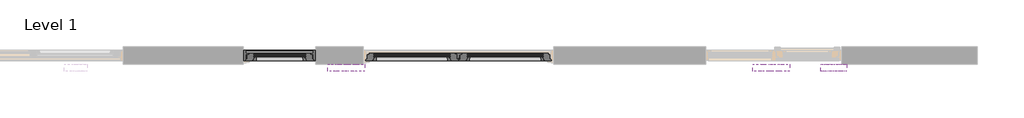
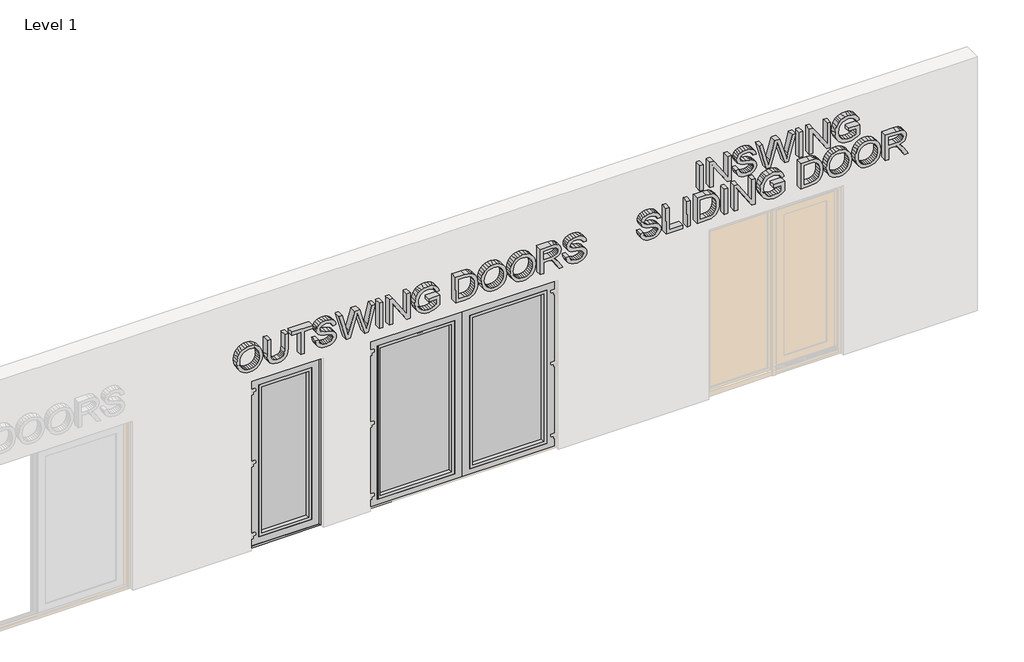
# One storey, part 4 of 4: 8 proxies.
"""IFC4 building model written with IfcOpenShell, lengths in millimetres."""

from ifc_helpers import new_model, si_unit, frame, origin, place, context, project, spatial, polyline, outline, extrude, transform, mapped, element, save
from components import default_b7455459, double_door_active_glazing_unit_default_3c53baf6, double_door_fixed_glazing_unit_default_5535939b, single_door_frame_default_a77f339c, single_door_glazing_unit_2_default_b848760a

model = new_model("IFC4")

# Units and contexts
model_context = context("Model", 3, world=origin())
ifc_project = project(units=[si_unit("LENGTHUNIT", "METRE", prefix="MILLI")], contexts=[model_context])

# Site, building, storey
site = spatial("IfcSite", under=ifc_project)
building = spatial("IfcBuilding", under=site)
storey = spatial("IfcBuildingStorey", under=building, Name="Level 1", Elevation=0.0)

# Proxies
placement = place(None, origin())
element("IfcBuildingElementProxy", 1, Name="600mm Arial", ObjectType="600mm Arial", at=placement, inside=storey, context=model_context, shape_type="SweptSolid", body=[
    extrude(outline(polyline([(2365.9362822, 5113.7460869), (2326.9959733, 5118.2158286), (2290.1830158, 5131.3788578), (2258.2199283, 5152.9665456), (2233.8292298, 5182.7102628), (2218.4087998, 5218.7839479), (2213.3565183, 5259.3615396), (2218.1585778, 5297.5572503), (2232.321306, 5333.0286957), (2255.5766458, 5363.2392491), (2287.6565404, 5385.6522837), (2326.5695701, 5399.502468), (2370.3243153, 5404.0244701), (2413.474852, 5399.4674154), (2451.7649655, 5386.076768), (2483.6530097, 5364.2662386), (2507.5973383, 5334.4495374), (2522.5443726, 5298.5817922), (2527.4405335, 5258.6181308), (2524.6741374, 5228.0145684), (2516.5724093, 5200.3738416), (2503.1353491, 5175.6959504), (2484.3629569, 5153.9808948), (2460.8812461, 5136.290991), (2433.31623, 5123.6885551), (2401.6679087, 5116.173587), (2365.9362822, 5113.7460869)]), holes=[polyline([(2365.681647, 5151.8179374), (2396.5481691, 5153.7073739), (2422.6727128, 5159.5802365), (2444.055278, 5169.4365252), (2460.6958648, 5183.2762401), (2473.1902285, 5199.8799429), (2482.1341245, 5218.0281956), (2487.5275528, 5237.720998), (2489.3705134, 5258.9583503), (2485.771248, 5288.4429007), (2474.7826271, 5314.8829402), (2457.0694007, 5336.8264509), (2433.2963185, 5352.8214151), (2404.1968823, 5362.6146188), (2370.5045937, 5365.9528484), (2343.6791948, 5364.1462474), (2320.0859871, 5358.5514074), (2299.7249707, 5349.1683282), (2282.5961455, 5335.9970101), (2269.013498, 5319.8869512), (2259.2910143, 5301.6876498), (2253.4286944, 5281.3991061), (2251.4265384, 5259.02132), (2253.2735076, 5237.0081247), (2258.9558178, 5216.9210712), (2268.473469, 5198.7601595), (2281.8264612, 5182.5253897), (2298.5204073, 5169.1523997), (2318.0609203, 5159.5768277), (2340.4480002, 5153.7986736), (2365.681647, 5151.8179374)])]), frame((0.0, 4149.5439366, 0.0), z_axis=(0.0, 1.0, 0.0), x_axis=(0.0, 0.0, 1.0)), (0.0, 0.0, 1.0), 76.2),
    extrude(outline(polyline([(2523.9623261, 5655.7727031), (2349.5369414, 5655.7727031), (2301.8593862, 5651.6413139), (2284.9246841, 5645.6751099), (2272.592699, 5637.287417), (2263.807206, 5626.063224), (2257.5119805, 5611.5875199), (2252.3923313, 5572.8815782), (2254.8453012, 5548.447574), (2262.3671211, 5528.0876376), (2274.5601251, 5512.4536213), (2291.0266472, 5502.1973774), (2314.8313905, 5496.4915421), (2349.0390581, 5494.508752), (2523.4058683, 5494.508752), (2523.4058683, 5455.9014939), (2347.5834858, 5455.9014939), (2304.3631678, 5459.465809), (2271.366117, 5468.2392952), (2246.7921828, 5483.7441049), (2228.8412149, 5506.9617203), (2217.8943207, 5537.9002633), (2214.3326075, 5576.567856), (2218.683264, 5616.0755077), (2231.4661569, 5647.1548087), (2250.9619557, 5669.8668178), (2275.4513298, 5684.2725939), (2307.160495, 5691.9267952), (2348.3156672, 5694.3840798), (2524.0209006, 5694.3840798), (2523.9623261, 5655.7727031)])), frame((0.0, 4149.5439366, 0.0), z_axis=(0.0, 1.0, 0.0), x_axis=(0.0, 0.0, 1.0)), (0.0, 0.0, 1.0), 76.2),
    extrude(outline(polyline([(2219.8945572, 5837.1357296), (2219.8945572, 5875.6164577), (2486.5066518, 5875.6164577), (2486.5066518, 5974.7320192), (2524.8848745, 5974.7320192), (2524.8848745, 5736.6729545), (2486.0819867, 5736.6729545), (2486.0819867, 5836.7257081), (2219.8945572, 5837.1357296)])), frame((0.0, 4149.5439366, 0.0), z_axis=(0.0, 1.0, 0.0), x_axis=(0.0, 0.0, 1.0)), (0.0, 0.0, 1.0), 76.2),
    extrude(outline(polyline([(2325.1601016, 6003.7829324), (2294.3688701, 6008.3947225), (2267.0050377, 6020.3947228), (2244.5692068, 6039.0252651), (2228.6205547, 6063.5286816), (2219.1229898, 6094.2582815), (2216.0404205, 6131.5673744), (2219.0988959, 6161.942318), (2228.0775486, 6189.120259), (2242.3864995, 6211.6995138), (2261.4358698, 6228.2783986), (2283.5420488, 6238.4438329), (2307.0214257, 6241.7827362), (2329.969979, 6238.7471128), (2350.0375464, 6229.7903398), (2367.0372632, 6214.5969725), (2380.7822649, 6192.8515665), (2389.60836, 6167.4313031), (2399.6846762, 6125.4254583), (2410.3040835, 6084.7191995), (2420.7594525, 6063.1976941), (2432.4984522, 6054.0713607), (2447.1188383, 6050.9963014), (2464.2898375, 6055.2190231), (2478.7731245, 6068.0011338), (2488.6564701, 6090.1478614), (2492.0276452, 6122.4644339), (2488.815951, 6154.0576872), (2478.9593838, 6176.8600178), (2462.6085447, 6191.484412), (2439.9140353, 6198.5438563), (2439.9140353, 6236.6145628), (2465.2435316, 6232.2428321), (2487.6474766, 6221.3734574), (2506.0912315, 6204.251645), (2519.423009, 6181.1226011), (2527.478595, 6152.990658), (2530.0937755, 6120.8601479), (2527.4093438, 6091.2183341), (2519.5473309, 6064.4552183), (2506.6892823, 6042.1782238), (2489.0167435, 6025.9947742), (2468.1942498, 6016.1599988), (2445.8863366, 6012.929027), (2425.9483203, 6015.6579563), (2408.0715343, 6023.7156974), (2392.5908704, 6037.1941666), (2379.8412203, 6056.1852803), (2370.7576784, 6079.4964404), (2361.2497334, 6115.914425), (2346.8835448, 6171.3921874), (2339.0424185, 6187.663441), (2329.6752022, 6197.3215683), (2318.6756804, 6202.0957094), (2305.9376376, 6203.7150042), (2292.8536345, 6201.64537), (2280.3700906, 6195.3540969), (2269.4812427, 6184.7451787), (2261.1813277, 6169.722609), (2255.9099093, 6151.1680311), (2254.1065508, 6129.9630884), (2256.3281852, 6105.8644051), (2263.1491344, 6084.2797257), (2273.7092901, 6066.6059012), (2287.1485442, 6054.2397823), (2304.1054788, 6046.2871135), (2325.2186761, 6041.8536389), (2325.1601016, 6003.7829324)])), frame((0.0, 4149.5439366, 0.0), z_axis=(0.0, 1.0, 0.0), x_axis=(0.0, 0.0, 1.0)), (0.0, 0.0, 1.0), 76.2),
    extrude(outline(polyline([(2221.4827043, 6353.6566377), (2221.4827043, 6399.6091702), (2450.1044142, 6465.4561133), (2489.623137, 6476.7855717), (2456.8631133, 6487.0733637), (2222.1201596, 6560.8148181), (2222.1201596, 6601.4880143), (2527.0667749, 6683.6817791), (2527.0667749, 6644.421363), (2324.8431244, 6596.4134228), (2264.792759, 6582.1728412), (2320.666494, 6568.1518155), (2376.3762996, 6549.186517), (2526.5164948, 6504.853558), (2526.5164948, 6448.2679962), (2318.8496879, 6388.528148), (2264.1484395, 6372.7839553), (2325.8932194, 6357.7224473), (2525.9135893, 6308.9232618), (2525.9135893, 6269.6628457), (2221.4827043, 6353.6566377)])), frame((0.0, 4149.5439366, 0.0), z_axis=(0.0, 1.0, 0.0), x_axis=(0.0, 0.0, 1.0)), (0.0, 0.0, 1.0), 76.2),
    extrude(outline(polyline([(2222.6329154, 6726.9799199), (2222.6329154, 6765.5192225), (2527.3157165, 6765.5192225), (2527.3157165, 6726.5113239), (2222.6329154, 6726.9799199)])), frame((0.0, 4149.5439366, 0.0), z_axis=(0.0, 1.0, 0.0), x_axis=(0.0, 0.0, 1.0)), (0.0, 0.0, 1.0), 76.2),
    extrude(outline(polyline([(2222.9843624, 6841.1920395), (2222.9843624, 6879.7313421), (2464.4638422, 6879.7313421), (2223.5911577, 7038.8549982), (2223.5911577, 7079.6025513), (2528.2821959, 7079.6025513), (2528.2821959, 7040.5946527), (2286.8770729, 7040.5946527), (2527.6754006, 6881.4709965), (2527.6754006, 6840.7234434), (2222.9843624, 6841.1920395)])), frame((0.0, 4149.5439366, 0.0), z_axis=(0.0, 1.0, 0.0), x_axis=(0.0, 0.0, 1.0)), (0.0, 0.0, 1.0), 76.2),
    extrude(outline(polyline([(2343.3318211, 7288.5667719), (2343.3318211, 7374.2844361), (2288.5713384, 7374.2844361), (2277.7675707, 7358.2677566), (2267.5956061, 7335.9639073), (2260.1830234, 7310.2682983), (2257.6574014, 7283.9070229), (2260.8093245, 7254.0334718), (2270.4540879, 7225.8315757), (2286.7942861, 7201.7080369), (2310.0325134, 7184.0695577), (2339.9559948, 7173.2421072), (2376.3519555, 7169.5516544), (2407.4050921, 7172.4304016), (2436.1714709, 7181.2647896), (2465.5655383, 7200.767555), (2477.6748403, 7215.3229627), (2487.2310722, 7233.8643556), (2493.4625242, 7256.3104561), (2495.5974867, 7282.5799868), (2493.7611635, 7305.0323236), (2488.107588, 7325.3958058), (2479.2744557, 7342.488045), (2467.8994621, 7355.1266527), (2452.7878647, 7364.7002147), (2432.7449206, 7372.5973168), (2442.7423783, 7407.6633181), (2470.8473202, 7397.8824692), (2493.0483276, 7384.4948569), (2510.1693598, 7366.4383506), (2523.0343763, 7342.6508197), (2531.0617925, 7314.4260163), (2533.6700237, 7283.0576925), (2528.872682, 7240.3540406), (2514.7598011, 7202.9584401), (2504.1437415, 7186.6068853), (2491.0662133, 7172.2937953), (2457.526751, 7149.7830103), (2417.5821916, 7135.9917684), (2374.6733127, 7131.4857528), (2332.0997567, 7136.2733995), (2293.7560206, 7150.3613139), (2261.8257935, 7173.5661773), (2238.4927644, 7205.7046709), (2224.2513773, 7244.3493583), (2219.596076, 7287.0728027), (2222.7081175, 7319.7526656), (2231.8406041, 7351.6146591), (2246.9375393, 7382.5845978), (2267.9429266, 7412.5882966), (2381.783262, 7412.5882966), (2381.783262, 7288.5081974), (2343.3318211, 7288.5667719)])), frame((0.0, 4149.5439366, 0.0), z_axis=(0.0, 1.0, 0.0), x_axis=(0.0, 0.0, 1.0)), (0.0, 0.0, 1.0), 76.2),
    extrude(outline(polyline([(2225.2980554, 7593.0884932), (2225.2980554, 7703.6795821), (2230.9925666, 7752.6275505), (2237.4759162, 7772.3588253), (2246.3848999, 7788.9782082), (2258.373086, 7803.4410416), (2274.0940429, 7816.7026679), (2293.9921955, 7828.2040379), (2318.511969, 7837.3861023), (2347.2974797, 7843.3762551), (2379.9928443, 7845.3018901), (2418.463304, 7842.1906195), (2452.379577, 7833.1075798), (2481.1838726, 7818.0173086), (2504.3183999, 7796.8843435), (2517.5838288, 7776.3580181), (2525.9672149, 7752.0544803), (2530.1870113, 7697.6861243), (2530.1870113, 7592.6198972), (2225.2980554, 7593.0884932)]), holes=[polyline([(2263.5895603, 7631.5106468), (2491.91015, 7631.5106468), (2491.91015, 7697.1340617), (2490.6886602, 7729.2237324), (2486.1830976, 7751.135896), (2473.5342874, 7772.692035), (2452.546699, 7790.7604393), (2421.9491731, 7803.0399362), (2380.4705501, 7807.2293532), (2349.1506442, 7805.2530122), (2322.8556589, 7799.1157753), (2301.4939636, 7789.2454803), (2284.973928, 7776.0699651), (2276.0318279, 7763.7913063), (2269.3464001, 7747.8621832), (2265.1545567, 7726.7389478), (2263.6932097, 7698.8779516), (2263.5895603, 7631.5106468)])]), frame((0.0, 4149.5439366, 0.0), z_axis=(0.0, 1.0, 0.0), x_axis=(0.0, 0.0, 1.0)), (0.0, 0.0, 1.0), 76.2),
    extrude(outline(polyline([(2374.4588728, 7883.389986), (2335.5185639, 7887.8597277), (2298.7056064, 7901.0227569), (2266.7425189, 7922.6104447), (2242.3518204, 7952.3541619), (2226.9313904, 7988.427847), (2221.8791089, 8029.0054387), (2226.6811684, 8067.2011494), (2240.8438966, 8102.6725948), (2264.0992364, 8132.8831482), (2296.179131, 8155.2961828), (2335.0921607, 8169.1463671), (2378.8469059, 8173.6683692), (2421.9974426, 8169.1113145), (2460.2875561, 8155.7206671), (2492.1756003, 8133.9101377), (2516.1199289, 8104.0934364), (2531.0669632, 8068.2256913), (2535.9631241, 8028.2620299), (2533.196728, 7997.6584675), (2525.0949998, 7970.0177407), (2511.6579397, 7945.3398495), (2492.8855475, 7923.6247939), (2469.4038367, 7905.9348901), (2441.8388206, 7893.3324542), (2410.1904993, 7885.8174861), (2374.4588728, 7883.389986)]), holes=[polyline([(2374.2042376, 7921.4618365), (2405.0707597, 7923.351273), (2431.1953034, 7929.2241356), (2452.5778686, 7939.0804243), (2469.2184554, 7952.9201392), (2481.7128191, 7969.523842), (2490.656715, 7987.6720947), (2496.0501434, 8007.3648971), (2497.893104, 8028.6022494), (2494.2938386, 8058.0867998), (2483.3052177, 8084.5268393), (2465.5919912, 8106.47035), (2441.8189091, 8122.4653142), (2412.7194729, 8132.2585179), (2379.0271843, 8135.5967475), (2352.2017853, 8133.7901465), (2328.6085777, 8128.1953065), (2308.2475612, 8118.8122273), (2291.1187361, 8105.6409092), (2277.5360886, 8089.5308503), (2267.8136049, 8071.3315489), (2261.951285, 8051.0430052), (2259.949129, 8028.6652191), (2261.7960982, 8006.6520238), (2267.4784084, 7986.5649703), (2276.9960596, 7968.4040586), (2290.3490518, 7952.1692888), (2307.0429979, 7938.7962988), (2326.5835109, 7929.2207268), (2348.9705908, 7923.4425727), (2374.2042376, 7921.4618365)])]), frame((0.0, 4149.5439366, 0.0), z_axis=(0.0, 1.0, 0.0), x_axis=(0.0, 0.0, 1.0)), (0.0, 0.0, 1.0), 76.2),
    extrude(outline(polyline([(2375.4692831, 8211.7498297), (2336.5289741, 8216.2195714), (2299.7160166, 8229.3826006), (2267.7529292, 8250.9702884), (2243.3622306, 8280.7140056), (2227.9418007, 8316.7876908), (2222.8895191, 8357.3652824), (2227.6915786, 8395.5609932), (2241.8543068, 8431.0324385), (2265.1096467, 8461.2429919), (2297.1895412, 8483.6560265), (2336.1025709, 8497.5062108), (2379.8573162, 8502.0282129), (2423.0078528, 8497.4711582), (2461.2979663, 8484.0805109), (2493.1860105, 8462.2699814), (2517.1303391, 8432.4532802), (2532.0773734, 8396.585535), (2536.9735343, 8356.6218736), (2534.2071382, 8326.0183112), (2526.1054101, 8298.3775844), (2512.6683499, 8273.6996932), (2493.8959577, 8251.9846376), (2470.4142469, 8234.2947338), (2442.8492308, 8221.6922979), (2411.2009096, 8214.1773298), (2375.4692831, 8211.7498297)]), holes=[polyline([(2375.2146478, 8249.8216802), (2406.0811699, 8251.7111167), (2432.2057136, 8257.5839793), (2453.5882788, 8267.440268), (2470.2288656, 8281.2799829), (2482.7232293, 8297.8836857), (2491.6671253, 8316.0319384), (2497.0605536, 8335.7247408), (2498.9035142, 8356.9620931), (2495.3042488, 8386.4466435), (2484.3156279, 8412.886683), (2466.6024015, 8434.8301937), (2442.8293193, 8450.8251579), (2413.7298831, 8460.6183617), (2380.0375945, 8463.9565912), (2353.2121956, 8462.1499902), (2329.6189879, 8456.5551502), (2309.2579715, 8447.1720711), (2292.1291464, 8434.0007529), (2278.5464988, 8417.890694), (2268.8240151, 8399.6913927), (2262.9616952, 8379.4028489), (2260.9595392, 8357.0250628), (2262.8065084, 8335.0118675), (2268.4888186, 8314.924814), (2278.0064698, 8296.7639023), (2291.359462, 8280.5291325), (2308.0534081, 8267.1561425), (2327.5939211, 8257.5805705), (2349.981001, 8251.8024164), (2375.2146478, 8249.8216802)])]), frame((0.0, 4149.5439366, 0.0), z_axis=(0.0, 1.0, 0.0), x_axis=(0.0, 0.0, 1.0)), (0.0, 0.0, 1.0), 76.2),
    extrude(outline(polyline([(2228.2560679, 8554.3738328), (2228.2560679, 8592.9131353), (2361.6206897, 8592.9131353), (2361.6206897, 8638.4556462), (2360.4916246, 8660.5437488), (2353.2975462, 8678.6719501), (2333.6176951, 8698.8462259), (2291.9172367, 8727.6022019), (2228.9102262, 8767.4286591), (2228.9102262, 8811.6709841), (2311.4261932, 8760.6312811), (2350.5172977, 8729.6526077), (2366.7348648, 8707.9646561), (2376.9442114, 8745.4373312), (2385.0891851, 8759.9468458), (2395.2610259, 8771.6384785), (2420.1810121, 8787.0374618), (2450.199874, 8792.1036447), (2474.3097955, 8788.9157325), (2496.2256167, 8779.5071268), (2513.8777577, 8764.8973177), (2525.1966391, 8746.1057952), (2531.279996, 8720.4244255), (2533.2255638, 8685.1450746), (2533.2255638, 8553.9052367), (2228.2560679, 8554.3738328)]), holes=[polyline([(2399.8225025, 8592.3859648), (2494.8681625, 8592.3859648), (2494.8681625, 8686.8980743), (2491.9622958, 8717.0320173), (2482.155347, 8737.835836), (2467.2281837, 8749.9555766), (2448.6699449, 8754.0372855), (2435.2141575, 8751.9687953), (2422.8049704, 8745.6772935), (2412.5303388, 8735.317442), (2405.4782177, 8721.0439029), (2401.3766326, 8702.067464), (2399.9536087, 8677.5989133), (2399.8225025, 8592.3859648)])]), frame((0.0, 4149.5439366, 0.0), z_axis=(0.0, 1.0, 0.0), x_axis=(0.0, 0.0, 1.0)), (0.0, 0.0, 1.0), 76.2),
    extrude(outline(polyline([(2333.9023466, 8844.8094062), (2303.1111151, 8849.4211963), (2275.7472827, 8861.4211966), (2253.3114518, 8880.0517389), (2237.3627997, 8904.5551554), (2227.8652348, 8935.2847553), (2224.7826654, 8972.5938482), (2227.8411409, 9002.9687918), (2236.8197936, 9030.1467329), (2251.1287445, 9052.7259876), (2270.1781148, 9069.3048724), (2292.2842938, 9079.4703067), (2315.7636707, 9082.80921), (2338.712224, 9079.7735866), (2358.7797914, 9070.8168136), (2375.7795082, 9055.6234464), (2389.5245099, 9033.8780403), (2398.350605, 9008.4577769), (2408.4269211, 8966.4519321), (2419.0463285, 8925.7456733), (2429.5016975, 8904.2241679), (2441.2406972, 8895.0978345), (2455.8610833, 8892.0227752), (2473.0320825, 8896.2454969), (2487.5153695, 8909.0276076), (2497.3987151, 8931.1743352), (2500.7698901, 8963.4909077), (2497.558196, 8995.0841611), (2487.7016288, 9017.8864917), (2471.3507897, 9032.5108859), (2448.6562803, 9039.5703301), (2448.6562803, 9077.6410366), (2473.9857766, 9073.2693059), (2496.3897215, 9062.3999312), (2514.8334765, 9045.2781188), (2528.165254, 9022.1490749), (2536.22084, 8994.0171318), (2538.8360205, 8961.8866217), (2536.1515888, 8932.2448079), (2528.2895759, 8905.4816921), (2515.4315273, 8883.2046976), (2497.7589885, 8867.021248), (2476.9364948, 8857.1864726), (2454.6285815, 8853.9555008), (2434.6905653, 8856.6844301), (2416.8137793, 8864.7421712), (2401.3331154, 8878.2206404), (2388.5834653, 8897.2117541), (2379.4999234, 8920.5229142), (2369.9919783, 8956.9408989), (2355.6257898, 9012.4186612), (2347.7846635, 9028.6899148), (2338.4174472, 9038.3480421), (2327.4179254, 9043.1221832), (2314.6798826, 9044.741478), (2301.5958795, 9042.6718438), (2289.1123355, 9036.3805708), (2278.2234877, 9025.7716526), (2269.9235727, 9010.7490829), (2264.6521543, 8992.194505), (2262.8487958, 8970.9895622), (2265.0704302, 8946.8908789), (2271.8913793, 8925.3061995), (2282.4515351, 8907.632375), (2295.8907892, 8895.2662562), (2312.8477238, 8887.3135873), (2333.9609211, 8882.8801127), (2333.9023466, 8844.8094062)])), frame((0.0, 4149.5439366, 0.0), z_axis=(0.0, 1.0, 0.0), x_axis=(0.0, 0.0, 1.0)), (0.0, 0.0, 1.0), 76.2),
])
element("IfcBuildingElementProxy", 2, Name="600mm Arial", ObjectType="600mm Arial", at=placement, inside=storey, context=model_context, shape_type="SweptSolid", body=[
    extrude(outline(polyline([(2322.4217434, 9685.8801676), (2291.630512, 9690.4919577), (2264.2666795, 9702.4919579), (2241.8308487, 9721.1225003), (2225.8821966, 9745.6259167), (2216.3846317, 9776.3555167), (2213.3020623, 9813.6646096), (2216.3605378, 9844.0395532), (2225.3391904, 9871.2174942), (2239.6481414, 9893.7967489), (2258.6975117, 9910.3756337), (2280.8036907, 9920.541068), (2304.2830675, 9923.8799714), (2327.2316209, 9920.844348), (2347.2991882, 9911.887575), (2364.298905, 9896.6942077), (2378.0439067, 9874.9488017), (2386.8700019, 9849.5285383), (2396.946318, 9807.5226935), (2407.5657254, 9766.8164347), (2418.0210944, 9745.2949293), (2429.760094, 9736.1685959), (2444.3804801, 9733.0935366), (2461.5514794, 9737.3162582), (2476.0347664, 9750.0983689), (2485.918112, 9772.2450966), (2489.289287, 9804.561669), (2486.0775929, 9836.1549224), (2476.2210256, 9858.957253), (2459.8701866, 9873.5816472), (2437.1756772, 9880.6410914), (2437.1756772, 9918.7117979), (2462.5051735, 9914.3400673), (2484.9091184, 9903.4706926), (2503.3528734, 9886.3488802), (2516.6846509, 9863.2198362), (2524.7402369, 9835.0878931), (2527.3554174, 9802.9573831), (2524.6709856, 9773.3155693), (2516.8089728, 9746.5524534), (2503.9509242, 9724.275459), (2486.2783854, 9708.0920093), (2465.4558917, 9698.2572339), (2443.1479784, 9695.0262622), (2423.2099622, 9697.7551915), (2405.3331762, 9705.8129325), (2389.8525122, 9719.2914017), (2377.1028622, 9738.2825155), (2368.0193202, 9761.5936755), (2358.5113752, 9798.0116602), (2344.1451867, 9853.4894226), (2336.3040604, 9869.7606761), (2326.9368441, 9879.4188035), (2315.9373223, 9884.1929446), (2303.1992795, 9885.8122393), (2290.1152763, 9883.7426051), (2277.6317324, 9877.4513321), (2266.7428846, 9866.8424139), (2258.4429696, 9851.8198442), (2253.1715511, 9833.2652663), (2251.3681927, 9812.0603236), (2253.589827, 9787.9616402), (2260.4107762, 9766.3769609), (2270.970932, 9748.7031364), (2284.4101861, 9736.3370175), (2301.3671207, 9728.3843486), (2322.4803179, 9723.9508741), (2322.4217434, 9685.8801676)])), frame((0.0, 4149.5439366, 0.0), z_axis=(0.0, 1.0, 0.0), x_axis=(0.0, 0.0, 1.0)), (0.0, 0.0, 1.0), 76.2),
    extrude(outline(polyline([(2218.5766308, 9980.7817068), (2218.5766308, 10171.6038354), (2257.2330824, 10171.6038354), (2257.2330824, 10019.2038603), (2523.259432, 10019.2038603), (2523.259432, 9980.3131108), (2218.5766308, 9980.7817068)])), frame((0.0, 4149.5439366, 0.0), z_axis=(0.0, 1.0, 0.0), x_axis=(0.0, 0.0, 1.0)), (0.0, 0.0, 1.0), 76.2),
    extrude(outline(polyline([(2219.3088122, 10218.7236225), (2219.3088122, 10257.2629251), (2523.9916133, 10257.2629251), (2523.9916133, 10218.2550265), (2219.3088122, 10218.7236225)])), frame((0.0, 4149.5439366, 0.0), z_axis=(0.0, 1.0, 0.0), x_axis=(0.0, 0.0, 1.0)), (0.0, 0.0, 1.0), 76.2),
    extrude(outline(polyline([(2219.6602592, 10332.9357421), (2219.6602592, 10443.526831), (2225.3547705, 10492.4747994), (2231.83812, 10512.2060741), (2240.7471037, 10528.825457), (2252.7352898, 10543.2882905), (2268.4562467, 10556.5499168), (2288.3543993, 10568.0512867), (2312.8741728, 10577.2333512), (2341.6596836, 10583.223504), (2374.3550481, 10585.149139), (2412.8255079, 10582.0378684), (2446.7417809, 10572.9548287), (2475.5460764, 10557.8645575), (2498.6806037, 10536.7315924), (2511.9460326, 10516.205267), (2520.3294187, 10491.9017292), (2524.5492151, 10437.5333732), (2524.5492151, 10332.467146), (2219.6602592, 10332.9357421)]), holes=[polyline([(2257.9517641, 10371.3578956), (2486.2723538, 10371.3578956), (2486.2723538, 10436.9813106), (2485.050864, 10469.0709813), (2480.5453014, 10490.9831448), (2467.8964912, 10512.5392839), (2446.9089029, 10530.6076881), (2416.3113769, 10542.8871851), (2374.8327539, 10547.076602), (2343.512848, 10545.1002611), (2317.2178627, 10538.9630242), (2295.8561674, 10529.0927292), (2279.3361319, 10515.917214), (2270.3940317, 10503.6385551), (2263.708604, 10487.7094321), (2259.5167606, 10466.5861966), (2258.0554136, 10438.7252005), (2257.9517641, 10371.3578956)])]), frame((0.0, 4149.5439366, 0.0), z_axis=(0.0, 1.0, 0.0), x_axis=(0.0, 0.0, 1.0)), (0.0, 0.0, 1.0), 76.2),
    extrude(outline(polyline([(2220.6120949, 10642.2602325), (2220.6120949, 10680.7995351), (2525.2948961, 10680.7995351), (2525.2948961, 10641.7916365), (2220.6120949, 10642.2602325)])), frame((0.0, 4149.5439366, 0.0), z_axis=(0.0, 1.0, 0.0), x_axis=(0.0, 0.0, 1.0)), (0.0, 0.0, 1.0), 76.2),
    extrude(outline(polyline([(2220.9635419, 10756.4723521), (2220.9635419, 10795.0116546), (2462.4430217, 10795.0116546), (2221.5703372, 10954.1353108), (2221.5703372, 10994.8828639), (2526.2613754, 10994.8828639), (2526.2613754, 10955.8749652), (2284.8562525, 10955.8749652), (2525.6545801, 10796.7513091), (2525.6545801, 10756.003756), (2220.9635419, 10756.4723521)])), frame((0.0, 4149.5439366, 0.0), z_axis=(0.0, 1.0, 0.0), x_axis=(0.0, 0.0, 1.0)), (0.0, 0.0, 1.0), 76.2),
    extrude(outline(polyline([(2341.3110007, 11203.8470845), (2341.3110007, 11289.5647487), (2286.550518, 11289.5647487), (2275.7467503, 11273.5480692), (2265.5747857, 11251.2442199), (2258.162203, 11225.5486109), (2255.636581, 11199.1873355), (2258.788504, 11169.3137844), (2268.4332675, 11141.1118883), (2284.7734657, 11116.9883495), (2308.0116929, 11099.3498703), (2337.9351744, 11088.5224198), (2374.3311351, 11084.831967), (2405.3842717, 11087.7107141), (2434.1506505, 11096.5451022), (2463.5447178, 11116.0478676), (2475.6540198, 11130.6032753), (2485.2102517, 11149.1446682), (2491.4417038, 11171.5907687), (2493.5766663, 11197.8602993), (2491.740343, 11220.3126362), (2486.0867675, 11240.6761184), (2477.2536352, 11257.7683576), (2465.8786417, 11270.4069653), (2450.7670442, 11279.9805273), (2430.7241002, 11287.8776294), (2440.7215578, 11322.9436307), (2468.8264998, 11313.1627818), (2491.0275071, 11299.7751695), (2508.1485394, 11281.7186632), (2521.0135559, 11257.9311323), (2529.0409721, 11229.7063289), (2531.6492032, 11198.3380051), (2526.8518616, 11155.6343532), (2512.7389806, 11118.2387527), (2502.1229211, 11101.8871979), (2489.0453928, 11087.5741079), (2455.5059305, 11065.0633229), (2415.5613711, 11051.272081), (2372.6524923, 11046.7660654), (2330.0789362, 11051.5537121), (2291.7352001, 11065.6416264), (2259.8049731, 11088.8464898), (2236.471944, 11120.9849835), (2222.2305569, 11159.6296709), (2217.5752555, 11202.3531153), (2220.687297, 11235.0329782), (2229.8197836, 11266.8949716), (2244.9167188, 11297.8649104), (2265.9221062, 11327.8686092), (2379.7624415, 11327.8686092), (2379.7624415, 11203.78851), (2341.3110007, 11203.8470845)])), frame((0.0, 4149.5439366, 0.0), z_axis=(0.0, 1.0, 0.0), x_axis=(0.0, 0.0, 1.0)), (0.0, 0.0, 1.0), 76.2),
    extrude(outline(polyline([(2223.2772349, 11508.3688058), (2223.2772349, 11618.9598947), (2228.9717462, 11667.9078631), (2235.4550958, 11687.6391378), (2244.3640795, 11704.2585207), (2256.3522656, 11718.7213542), (2272.0732224, 11731.9829805), (2291.9713751, 11743.4843505), (2316.4911485, 11752.6664149), (2345.2766593, 11758.6565677), (2377.9720239, 11760.5822027), (2416.4424836, 11757.4709321), (2450.3587566, 11748.3878924), (2479.1630521, 11733.2976212), (2502.2975794, 11712.1646561), (2515.5630083, 11691.6383307), (2523.9463945, 11667.3347929), (2528.1661909, 11612.9664369), (2528.1661909, 11507.9002097), (2223.2772349, 11508.3688058)]), holes=[polyline([(2261.5687399, 11546.7909593), (2489.8893296, 11546.7909593), (2489.8893296, 11612.4143743), (2488.6678398, 11644.504045), (2484.1622771, 11666.4162086), (2471.513467, 11687.9723476), (2450.5258786, 11706.0407518), (2419.9283526, 11718.3202488), (2378.4497296, 11722.5096657), (2347.1298238, 11720.5333248), (2320.8348384, 11714.3960879), (2299.4731432, 11704.5257929), (2282.9531076, 11691.3502777), (2274.0110075, 11679.0716188), (2267.3255797, 11663.1424958), (2263.1337363, 11642.0192603), (2261.6723893, 11614.1582642), (2261.5687399, 11546.7909593)])]), frame((0.0, 4149.5439366, 0.0), z_axis=(0.0, 1.0, 0.0), x_axis=(0.0, 0.0, 1.0)), (0.0, 0.0, 1.0), 76.2),
    extrude(outline(polyline([(2372.4380524, 11798.6702985), (2333.4977435, 11803.1400403), (2296.6847859, 11816.3030695), (2264.7216985, 11837.8907573), (2240.3309999, 11867.6344745), (2224.91057, 11903.7081596), (2219.8582884, 11944.2857512), (2224.6603479, 11982.481462), (2238.8230761, 12017.9529074), (2262.078416, 12048.1634608), (2294.1583105, 12070.5764954), (2333.0713402, 12084.4266797), (2376.8260855, 12088.9486818), (2419.9766221, 12084.3916271), (2458.2667356, 12071.0009797), (2490.1547798, 12049.1904503), (2514.0991085, 12019.373749), (2529.0461427, 11983.5060038), (2533.9423036, 11943.5423424), (2531.1759075, 11912.93878), (2523.0741794, 11885.2980533), (2509.6371192, 11860.6201621), (2490.864727, 11838.9051065), (2467.3830162, 11821.2152027), (2439.8180002, 11808.6127667), (2408.1696789, 11801.0977987), (2372.4380524, 11798.6702985)]), holes=[polyline([(2372.1834171, 11836.7421491), (2403.0499393, 11838.6315856), (2429.1744829, 11844.5044482), (2450.5570482, 11854.3607369), (2467.1976349, 11868.2004518), (2479.6919986, 11884.8041546), (2488.6358946, 11902.9524072), (2494.0293229, 11922.6452097), (2495.8722835, 11943.882562), (2492.2730181, 11973.3671124), (2481.2843973, 11999.8071519), (2463.5711708, 12021.7506626), (2439.7980886, 12037.7456268), (2410.6986524, 12047.5388305), (2377.0063639, 12050.8770601), (2350.1809649, 12049.0704591), (2326.5877572, 12043.475619), (2306.2267408, 12034.0925399), (2289.0979157, 12020.9212218), (2275.5152681, 12004.8111628), (2265.7927844, 11986.6118615), (2259.9304646, 11966.3233178), (2257.9283085, 11943.9455317), (2259.7752778, 11921.9323364), (2265.457588, 11901.8452829), (2274.9752392, 11883.6843712), (2288.3282313, 11867.4496013), (2305.0221774, 11854.0766114), (2324.5626904, 11844.5010393), (2346.9497704, 11838.7228852), (2372.1834171, 11836.7421491)])]), frame((0.0, 4149.5439366, 0.0), z_axis=(0.0, 1.0, 0.0), x_axis=(0.0, 0.0, 1.0)), (0.0, 0.0, 1.0), 76.2),
    extrude(outline(polyline([(2373.4484626, 12127.0301422), (2334.5081537, 12131.499884), (2297.6951961, 12144.6629132), (2265.7321087, 12166.250601), (2241.3414101, 12195.9943182), (2225.9209802, 12232.0680033), (2220.8686987, 12272.645595), (2225.6707581, 12310.8413057), (2239.8334863, 12346.3127511), (2263.0888262, 12376.5233045), (2295.1687208, 12398.9363391), (2334.0817505, 12412.7865234), (2377.8364957, 12417.3085255), (2420.9870324, 12412.7514708), (2459.2771459, 12399.3608234), (2491.16519, 12377.550294), (2515.1095187, 12347.7335927), (2530.0565529, 12311.8658475), (2534.9527138, 12271.9021862), (2532.1863177, 12241.2986238), (2524.0845896, 12213.657897), (2510.6475295, 12188.9800058), (2491.8751373, 12167.2649502), (2468.3934264, 12149.5750464), (2440.8284104, 12136.9726105), (2409.1800891, 12129.4576424), (2373.4484626, 12127.0301422)]), holes=[polyline([(2373.1938274, 12165.1019928), (2404.0603495, 12166.9914293), (2430.1848932, 12172.8642919), (2451.5674584, 12182.7205806), (2468.2080451, 12196.5602955), (2480.7024088, 12213.1639983), (2489.6463048, 12231.3122509), (2495.0397331, 12251.0050534), (2496.8826937, 12272.2424057), (2493.2834284, 12301.7269561), (2482.2948075, 12328.1669956), (2464.581581, 12350.1105063), (2440.8084989, 12366.1054705), (2411.7090627, 12375.8986742), (2378.0167741, 12379.2369038), (2351.1913751, 12377.4303028), (2327.5981674, 12371.8354627), (2307.237151, 12362.4523836), (2290.1083259, 12349.2810655), (2276.5256784, 12333.1710066), (2266.8031946, 12314.9717052), (2260.9408748, 12294.6831615), (2258.9387188, 12272.3053754), (2260.785688, 12250.2921801), (2266.4679982, 12230.2051266), (2275.9856494, 12212.0442149), (2289.3386416, 12195.809445), (2306.0325877, 12182.4364551), (2325.5731007, 12172.860883), (2347.9601806, 12167.082729), (2373.1938274, 12165.1019928)])]), frame((0.0, 4149.5439366, 0.0), z_axis=(0.0, 1.0, 0.0), x_axis=(0.0, 0.0, 1.0)), (0.0, 0.0, 1.0), 76.2),
    extrude(outline(polyline([(2226.2352475, 12469.6541453), (2226.2352475, 12508.1934479), (2359.5998693, 12508.1934479), (2359.5998693, 12553.7359588), (2358.4708041, 12575.8240614), (2351.2767258, 12593.9522627), (2331.5968747, 12614.1265384), (2289.8964163, 12642.8825145), (2226.8894057, 12682.7089717), (2226.8894057, 12726.9512967), (2309.4053728, 12675.9115936), (2348.4964772, 12644.9329203), (2364.7140444, 12623.2449687), (2374.9233909, 12660.7176438), (2383.0683647, 12675.2271584), (2393.2402054, 12686.9187911), (2418.1601917, 12702.3177744), (2448.1790536, 12707.3839573), (2472.2889751, 12704.1960451), (2494.2047962, 12694.7874394), (2511.8569373, 12680.1776303), (2523.1758186, 12661.3861078), (2529.2591756, 12635.7047381), (2531.2047434, 12600.4253872), (2531.2047434, 12469.1855493), (2226.2352475, 12469.6541453)]), holes=[polyline([(2397.801682, 12507.6662773), (2492.8473421, 12507.6662773), (2492.8473421, 12602.1783869), (2489.9414753, 12632.3123299), (2480.1345265, 12653.1161486), (2465.2073632, 12665.2358892), (2446.6491244, 12669.3175981), (2433.193337, 12667.2491079), (2420.78415, 12660.9576061), (2410.5095183, 12650.5977546), (2403.4573973, 12636.3242155), (2399.3558121, 12617.3477766), (2397.9327882, 12592.8792259), (2397.801682, 12507.6662773)])]), frame((0.0, 4149.5439366, 0.0), z_axis=(0.0, 1.0, 0.0), x_axis=(0.0, 0.0, 1.0)), (0.0, 0.0, 1.0), 76.2),
])
element("IfcBuildingElementProxy", 3, Name="600mm Arial", ObjectType="600mm Arial", at=placement, inside=storey, context=model_context, shape_type="SweptSolid", body=[
    extrude(outline(polyline([(2598.7273005, 10365.1690846), (2598.7273005, 10403.7083871), (2903.4101017, 10403.7083871), (2903.4101017, 10364.7004885), (2598.7273005, 10365.1690846)])), frame((0.0, 4149.5439366, 0.0), z_axis=(0.0, 1.0, 0.0), x_axis=(0.0, 0.0, 1.0)), (0.0, 0.0, 1.0), 76.2),
    extrude(outline(polyline([(2599.0787475, 10479.3812041), (2599.0787475, 10517.9205067), (2840.5582273, 10517.9205067), (2599.6855428, 10677.0441628), (2599.6855428, 10717.7917159), (2904.376581, 10717.7917159), (2904.376581, 10678.7838173), (2662.9714581, 10678.7838173), (2903.7697857, 10519.6601611), (2903.7697857, 10478.9126081), (2599.0787475, 10479.3812041)])), frame((0.0, 4149.5439366, 0.0), z_axis=(0.0, 1.0, 0.0), x_axis=(0.0, 0.0, 1.0)), (0.0, 0.0, 1.0), 76.2),
    extrude(outline(polyline([(2704.7250262, 10769.8167776), (2673.9337948, 10774.4285677), (2646.5699623, 10786.4285679), (2624.1341314, 10805.0591103), (2608.1854793, 10829.5625267), (2598.6879144, 10860.2921267), (2595.6053451, 10897.6012196), (2598.6638205, 10927.9761632), (2607.6424732, 10955.1541042), (2621.9514241, 10977.7333589), (2641.0007945, 10994.3122437), (2663.1069734, 11004.477678), (2686.5863503, 11007.8165814), (2709.5349036, 11004.780958), (2729.602471, 10995.824185), (2746.6021878, 10980.6308177), (2760.3471895, 10958.8854117), (2769.1732846, 10933.4651483), (2779.2496008, 10891.4593035), (2789.8690082, 10850.7530447), (2800.3243771, 10829.2315393), (2812.0633768, 10820.1052059), (2826.6837629, 10817.0301466), (2843.8547621, 10821.2528682), (2858.3380491, 10834.0349789), (2868.2213947, 10856.1817066), (2871.5925698, 10888.498279), (2868.3808756, 10920.0915324), (2858.5243084, 10942.893863), (2842.1734694, 10957.5182572), (2819.4789599, 10964.5777014), (2819.4789599, 11002.6484079), (2844.8084562, 10998.2766773), (2867.2124012, 10987.4073026), (2885.6561561, 10970.2854902), (2898.9879336, 10947.1564462), (2907.0435197, 10919.0245031), (2909.6587002, 10886.8939931), (2906.9742684, 10857.2521793), (2899.1122555, 10830.4890634), (2886.2542069, 10808.212069), (2868.5816681, 10792.0286193), (2847.7591745, 10782.1938439), (2825.4512612, 10778.9628722), (2805.5132449, 10781.6918015), (2787.6364589, 10789.7495425), (2772.155795, 10803.2280117), (2759.4061449, 10822.2191255), (2750.322603, 10845.5302855), (2740.814658, 10881.9482702), (2726.4484694, 10937.4260326), (2718.6073431, 10953.6972861), (2709.2401268, 10963.3554135), (2698.240605, 10968.1295546), (2685.5025622, 10969.7488493), (2672.4185591, 10967.6792151), (2659.9350152, 10961.3879421), (2649.0461673, 10950.7790239), (2640.7462524, 10935.7564542), (2635.4748339, 10917.2018763), (2633.6714754, 10895.9969336), (2635.8931098, 10871.8982502), (2642.714059, 10850.3135709), (2653.2742147, 10832.6397464), (2666.7134688, 10820.2736275), (2683.6704035, 10812.3209586), (2704.7836007, 10807.8874841), (2704.7250262, 10769.8167776)])), frame((0.0, 4149.5439366, 0.0), z_axis=(0.0, 1.0, 0.0), x_axis=(0.0, 0.0, 1.0)), (0.0, 0.0, 1.0), 76.2),
    extrude(outline(polyline([(2601.0476289, 11119.6904829), (2601.0476289, 11165.6430154), (2829.6693388, 11231.4899585), (2869.1880616, 11242.8194168), (2836.4280379, 11253.1072089), (2601.6850842, 11326.8486633), (2601.6850842, 11367.5218595), (2906.6316995, 11449.7156242), (2906.6316995, 11410.4552081), (2704.408049, 11362.447268), (2644.3576837, 11348.2066863), (2700.2314186, 11334.1856607), (2755.9412242, 11315.2203622), (2906.0814194, 11270.8874032), (2906.0814194, 11214.3018414), (2698.4146125, 11154.5619932), (2643.7133641, 11138.8178005), (2705.458144, 11123.7562924), (2905.4785139, 11074.957107), (2905.4785139, 11035.6966909), (2601.0476289, 11119.6904829)])), frame((0.0, 4149.5439366, 0.0), z_axis=(0.0, 1.0, 0.0), x_axis=(0.0, 0.0, 1.0)), (0.0, 0.0, 1.0), 76.2),
    extrude(outline(polyline([(2602.19784, 11493.0137651), (2602.19784, 11531.5530677), (2906.8806411, 11531.5530677), (2906.8806411, 11492.5451691), (2602.19784, 11493.0137651)])), frame((0.0, 4149.5439366, 0.0), z_axis=(0.0, 1.0, 0.0), x_axis=(0.0, 0.0, 1.0)), (0.0, 0.0, 1.0), 76.2),
    extrude(outline(polyline([(2602.549287, 11607.2258847), (2602.549287, 11645.7651872), (2844.0287668, 11645.7651872), (2603.1560823, 11804.8888434), (2603.1560823, 11845.6363964), (2907.8471205, 11845.6363964), (2907.8471205, 11806.6284978), (2666.4419975, 11806.6284978), (2907.2403252, 11647.5048417), (2907.2403252, 11606.7572886), (2602.549287, 11607.2258847)])), frame((0.0, 4149.5439366, 0.0), z_axis=(0.0, 1.0, 0.0), x_axis=(0.0, 0.0, 1.0)), (0.0, 0.0, 1.0), 76.2),
    extrude(outline(polyline([(2722.8967458, 12054.6006171), (2722.8967458, 12140.3182813), (2668.136263, 12140.3182813), (2657.3324953, 12124.3016018), (2647.1605307, 12101.9977524), (2639.747948, 12076.3021435), (2637.222326, 12049.940868), (2640.3742491, 12020.067317), (2650.0190125, 11991.8654209), (2666.3592107, 11967.7418821), (2689.597438, 11950.1034029), (2719.5209194, 11939.2759524), (2755.9168801, 11935.5854996), (2786.9700167, 11938.4642467), (2815.7363955, 11947.2986348), (2845.1304629, 11966.8014002), (2857.2397649, 11981.3568079), (2866.7959968, 11999.8982008), (2873.0274488, 12022.3443013), (2875.1624113, 12048.6138319), (2873.3260881, 12071.0661688), (2867.6725126, 12091.429651), (2858.8393803, 12108.5218902), (2847.4643867, 12121.1604979), (2832.3527893, 12130.7340598), (2812.3098453, 12138.631162), (2822.3073029, 12173.6971633), (2850.4122448, 12163.9163144), (2872.6132522, 12150.5287021), (2889.7342844, 12132.4721958), (2902.599301, 12108.6846649), (2910.6267171, 12080.4598615), (2913.2349483, 12049.0915377), (2908.4376066, 12006.3878858), (2894.3247257, 11968.9922853), (2883.7086661, 11952.6407304), (2870.6311379, 11938.3276405), (2837.0916756, 11915.8168555), (2797.1471162, 11902.0256136), (2754.2382373, 11897.519598), (2711.6646813, 11902.3072447), (2673.3209452, 11916.395159), (2641.3907181, 11939.6000224), (2618.0576891, 11971.7385161), (2603.8163019, 12010.3832035), (2599.1610006, 12053.1066478), (2602.2730421, 12085.7865108), (2611.4055287, 12117.6485042), (2626.5024639, 12148.618443), (2647.5078513, 12178.6221418), (2761.3481866, 12178.6221418), (2761.3481866, 12054.5420426), (2722.8967458, 12054.6006171)])), frame((0.0, 4149.5439366, 0.0), z_axis=(0.0, 1.0, 0.0), x_axis=(0.0, 0.0, 1.0)), (0.0, 0.0, 1.0), 76.2),
])
default_shape = default_b7455459(model_context)
element("IfcBuildingElementProxy", 4, Name="Double Door  Mullion Glazing Unit : Default", ObjectType="Double Door  Mullion Glazing Unit : Default", at=placement, inside=storey, context=model_context, shape_type="MappedRepresentation", body=[
    mapped(default_shape, transform((7735.7396356, 4267.8001866, 0.0), x_axis=(1.0, 0.0, 0.0), y_axis=(0.0, 1.0, 0.0), z_axis=(0.0, 0.0, 1.0))),
])
double_door_active_glazing_unit_default_shape = double_door_active_glazing_unit_default_3c53baf6(model_context)
element("IfcBuildingElementProxy", 5, Name="Double Door Active Glazing Unit : Default", ObjectType="Double Door Active Glazing Unit : Default", at=placement, inside=storey, context=model_context, shape_type="MappedRepresentation", body=[
    mapped(double_door_active_glazing_unit_default_shape, transform((8781.9021356, 4267.8001866, 0.0), x_axis=(-1.0, 0.0, 0.0), y_axis=(0.0, -1.0, 0.0), z_axis=(0.0, 0.0, 1.0))),
])
double_door_fixed_glazing_unit_default_shape = double_door_fixed_glazing_unit_default_5535939b(model_context)
element("IfcBuildingElementProxy", 6, Name="Double Door Fixed Glazing Unit : Default", ObjectType="Double Door Fixed Glazing Unit : Default", at=placement, inside=storey, context=model_context, shape_type="MappedRepresentation", body=[
    mapped(double_door_fixed_glazing_unit_default_shape, transform((6689.5771356, 4267.8001866, 0.0), x_axis=(-1.0, 0.0, 0.0), y_axis=(0.0, -1.0, 0.0), z_axis=(0.0, 0.0, 1.0))),
])
single_door_frame_default_shape = single_door_frame_default_a77f339c(model_context)
element("IfcBuildingElementProxy", 7, Name="Single Door Frame : Default", ObjectType="Single Door Frame : Default", at=placement, inside=storey, context=model_context, shape_type="MappedRepresentation", body=[
    mapped(single_door_frame_default_shape, transform((5729.1396356, 4267.8001866, 0.0), x_axis=(1.0, 0.0, 0.0), y_axis=(0.0, 1.0, 0.0), z_axis=(0.0, 0.0, 1.0))),
])
single_door_glazing_unit_2_default_shape = single_door_glazing_unit_2_default_b848760a(model_context)
element("IfcBuildingElementProxy", 8, Name="Single Door Glazing Unit 2 : Default", ObjectType="Single Door Glazing Unit 2 : Default", at=placement, inside=storey, context=model_context, shape_type="MappedRepresentation", body=[
    mapped(single_door_glazing_unit_2_default_shape, transform((5729.1396356, 4267.8001866, 0.0), x_axis=(1.0, 0.0, 0.0), y_axis=(0.0, 1.0, 0.0), z_axis=(0.0, 0.0, 1.0))),
])

save(model, "model.ifc")
